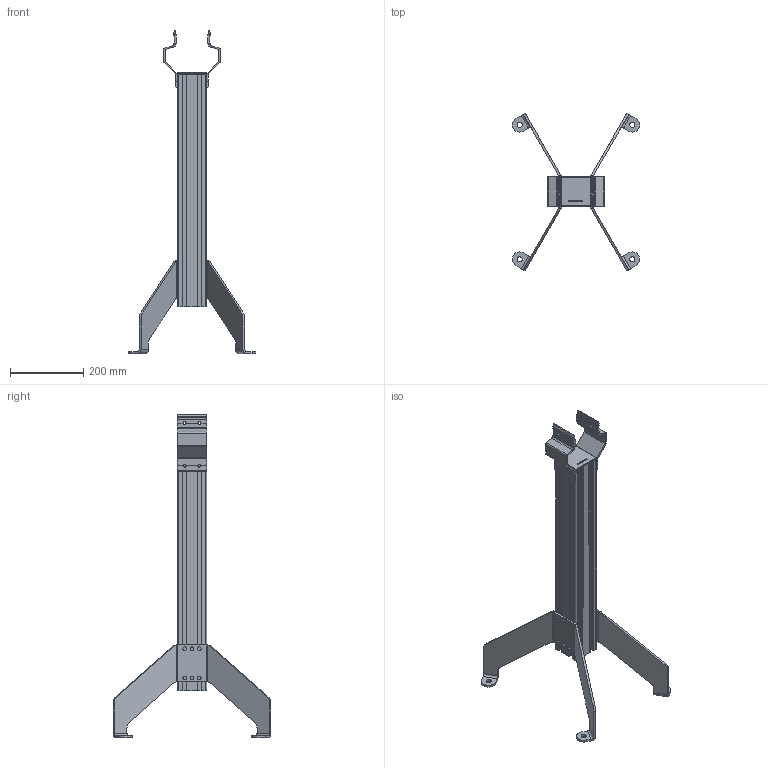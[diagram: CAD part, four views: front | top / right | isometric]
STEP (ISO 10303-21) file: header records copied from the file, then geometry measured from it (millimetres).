
FILE_DESCRIPTION((''),'2;1');
FILE_NAME('C:\Vault Klient\Projekt\Koncept konstruktion\Benstöd\100-1370.stp','2009-12-03T10:09:35',('Mathias'),(''),'Autodesk Inventor 2010','Autodesk Inventor 2010','');
FILE_SCHEMA(('CONFIG_CONTROL_DESIGN'));
Length unit declared in the file: millimetre
Products named in the file (5): 100-1370; 100-1030-02; 100-1155; 100-1230; 100-2030
Assembly tree (6 placements, depth 2):
  100-1370
    100-1030-02
    100-1155  x2
    100-1230  x2
    100-2030
Bounding box: 347.93 x 430.57 x 885 mm (x, y, z)
Volume: 3808649.6 mm3; surface area: 726284.2 mm2
Topology: 6 solids, 6 shells, 677 faces, 1952 edges, 1296 vertices
Faces by surface type: plane 443, cylinder 152, bspline 62, cone 16, torus 4
Entity records: 19611 total; most frequent: CARTESIAN_POINT 4692, ORIENTED_EDGE 3216, DIRECTION 2876, EDGE_CURVE 1608, VECTOR 1208, LINE 1208, VERTEX_POINT 1072, AXIS2_PLACEMENT_3D 834
